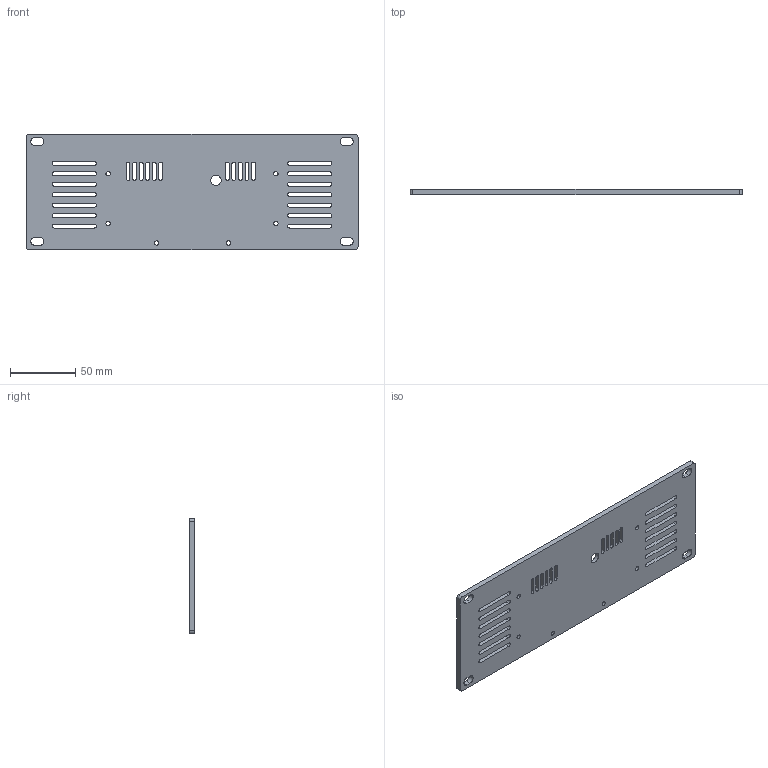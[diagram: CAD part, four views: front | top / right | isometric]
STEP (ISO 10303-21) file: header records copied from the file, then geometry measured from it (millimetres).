
FILE_DESCRIPTION(('Open CASCADE Model'),'2;1');
FILE_NAME('Open CASCADE Shape Model','2026-10-28T16:46:13',('Author'),( 'Open CASCADE'),'Open CASCADE STEP processor 7.9','Open CASCADE 7.9' ,'Unknown');
FILE_SCHEMA(('AUTOMOTIVE_DESIGN { 1 0 10303 214 1 1 1 1 }'));
Length unit declared in the file: millimetre
Products named in the file (1): Open CASCADE STEP translator 7.9 8
Bounding box: 254 x 4 x 88.1 mm (x, y, z)
Volume: 80792.1 mm3; surface area: 49314.2 mm2
Topology: 1 solids, 1 shells, 251 faces, 744 edges, 496 vertices
Faces by surface type: cylinder 128, plane 123
Full cylindrical faces by diameter (mm): 3.4 x6, 8 x1, 11 x1
Entity records: 17890 total; most frequent: CARTESIAN_POINT 3552, DIRECTION 2510, ORIENTED_EDGE 1488, PCURVE 1488, DEFINITIONAL_REPRESENTATION 1488, LINE 1256, VECTOR 1256, EDGE_CURVE 744
